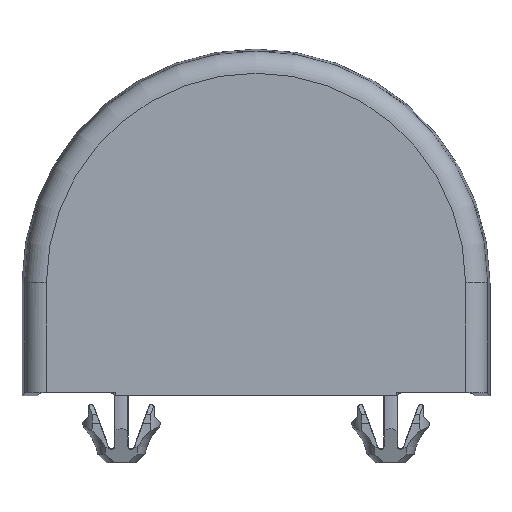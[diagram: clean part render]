
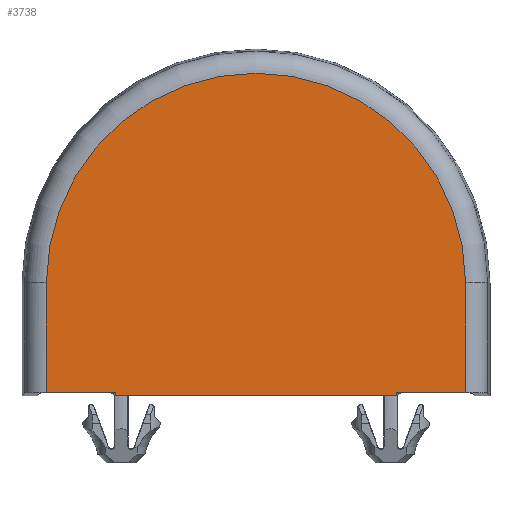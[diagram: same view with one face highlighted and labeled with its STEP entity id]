
A CAD part, top view. The second image highlights one B-rep face of the part: STEP entity #3738.
In plain terms, the highlighted planar face has unit normal (0, 0, 1).
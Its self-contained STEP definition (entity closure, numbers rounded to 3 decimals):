
#626=DIRECTION('',(1.,0.,0.));
#627=VECTOR('',#626,4.748);
#628=CARTESIAN_POINT('',(-14.318,0.21,0.));
#629=LINE('',#628,#627);
#654=DIRECTION('',(1.,0.,0.));
#655=VECTOR('',#654,4.748);
#656=CARTESIAN_POINT('',(9.57,0.21,0.));
#657=LINE('',#656,#655);
#844=DIRECTION('',(0.,-1.,0.));
#845=VECTOR('',#844,7.49);
#846=CARTESIAN_POINT('',(-14.318,7.7,0.));
#847=LINE('',#846,#845);
#848=CARTESIAN_POINT('',(0.,7.7,0.));
#849=DIRECTION('',(0.,0.,1.));
#850=DIRECTION('',(1.,0.,0.));
#851=AXIS2_PLACEMENT_3D('',#848,#849,#850);
#853=DIRECTION('',(0.,1.,0.));
#854=VECTOR('',#853,7.49);
#855=CARTESIAN_POINT('',(14.318,0.21,0.));
#856=LINE('',#855,#854);
#857=DIRECTION('',(0.,-1.,0.));
#858=VECTOR('',#857,0.21);
#859=CARTESIAN_POINT('',(9.57,0.21,0.));
#860=LINE('',#859,#858);
#861=DIRECTION('',(1.,0.,0.));
#862=VECTOR('',#861,19.141);
#863=CARTESIAN_POINT('',(-9.57,0.,0.));
#864=LINE('',#863,#862);
#997=DIRECTION('',(0.,-1.,0.));
#998=VECTOR('',#997,0.21);
#999=CARTESIAN_POINT('',(-9.57,0.21,0.));
#1000=LINE('',#999,#998);
#2302=CARTESIAN_POINT('',(-14.318,7.7,0.));
#2303=CARTESIAN_POINT('',(-14.318,0.21,0.));
#2304=VERTEX_POINT('',#2302);
#2305=VERTEX_POINT('',#2303);
#2306=CARTESIAN_POINT('',(14.318,7.7,0.));
#2307=VERTEX_POINT('',#2306);
#2310=CARTESIAN_POINT('',(14.318,0.21,0.));
#2311=VERTEX_POINT('',#2310);
#2426=CARTESIAN_POINT('',(-9.57,0.,0.));
#2427=CARTESIAN_POINT('',(9.57,0.,0.));
#2428=VERTEX_POINT('',#2426);
#2429=VERTEX_POINT('',#2427);
#2434=CARTESIAN_POINT('',(9.57,0.21,0.));
#2435=VERTEX_POINT('',#2434);
#2436=CARTESIAN_POINT('',(-9.57,0.21,0.));
#2437=VERTEX_POINT('',#2436);
#3719=CARTESIAN_POINT('',(0.,0.,0.));
#3720=DIRECTION('',(0.,0.,1.));
#3721=DIRECTION('',(1.,0.,0.));
#3722=AXIS2_PLACEMENT_3D('',#3719,#3720,#3721);
#3723=PLANE('',#3722);
#3725=ORIENTED_EDGE('',*,*,#3724,.F.);
#3727=ORIENTED_EDGE('',*,*,#3726,.F.);
#3728=ORIENTED_EDGE('',*,*,#3710,.F.);
#3729=ORIENTED_EDGE('',*,*,#3495,.F.);
#3731=ORIENTED_EDGE('',*,*,#3730,.T.);
#3732=ORIENTED_EDGE('',*,*,#3598,.F.);
#3734=ORIENTED_EDGE('',*,*,#3733,.F.);
#3735=ORIENTED_EDGE('',*,*,#3460,.F.);
#3736=EDGE_LOOP('',(#3725,#3727,#3728,#3729,#3731,#3732,#3734,#3735));
#3737=FACE_OUTER_BOUND('',#3736,.F.);
#3738=ADVANCED_FACE('',(#3737),#3723,.T.);
#852=CIRCLE('',#851,14.318);
#3460=EDGE_CURVE('',#2305,#2437,#629,.T.);
#3495=EDGE_CURVE('',#2435,#2311,#657,.T.);
#3598=EDGE_CURVE('',#2428,#2429,#864,.T.);
#3710=EDGE_CURVE('',#2311,#2307,#856,.T.);
#3724=EDGE_CURVE('',#2304,#2305,#847,.T.);
#3726=EDGE_CURVE('',#2307,#2304,#852,.T.);
#3730=EDGE_CURVE('',#2435,#2429,#860,.T.);
#3733=EDGE_CURVE('',#2437,#2428,#1000,.T.);
